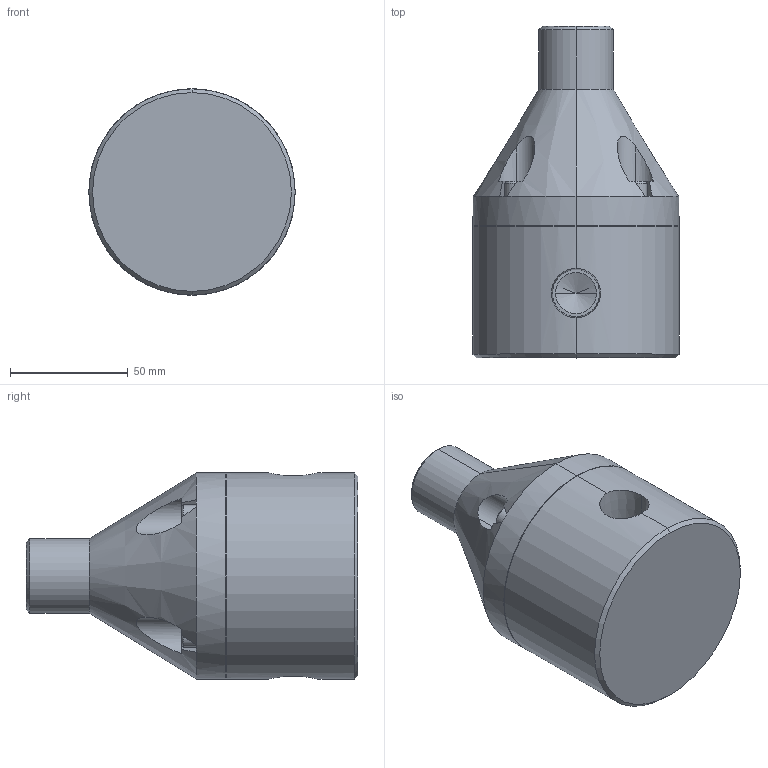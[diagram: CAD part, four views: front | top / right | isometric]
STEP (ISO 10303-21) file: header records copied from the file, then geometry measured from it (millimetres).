
FILE_DESCRIPTION (( 'STEP AP203' ), '1' );
FILE_NAME ('GBP0500-BSPT.STEP', '2015-04-27T10:06:09', ( 'Dan Bernard' ), ( '' ), 'SwSTEP 2.0', 'SolidWorks 2008', '' );
FILE_SCHEMA (( 'CONFIG_CONTROL_DESIGN' ));
Length unit declared in the file: inch
Products named in the file (1): GBP0500-BSPT
Bounding box: 87.63 x 140.97 x 87.63 mm (x, y, z)
Volume: 548945.8 mm3; surface area: 49834.1 mm2
Topology: 1 solids, 1 shells, 127 faces, 306 edges, 192 vertices
Faces by surface type: plane 71, cylinder 28, cone 26, torus 2
Entity records: 4122 total; most frequent: CARTESIAN_POINT 1063, DIRECTION 630, ORIENTED_EDGE 604, EDGE_CURVE 302, AXIS2_PLACEMENT_3D 222, VERTEX_POINT 192, LINE 186, VECTOR 186
